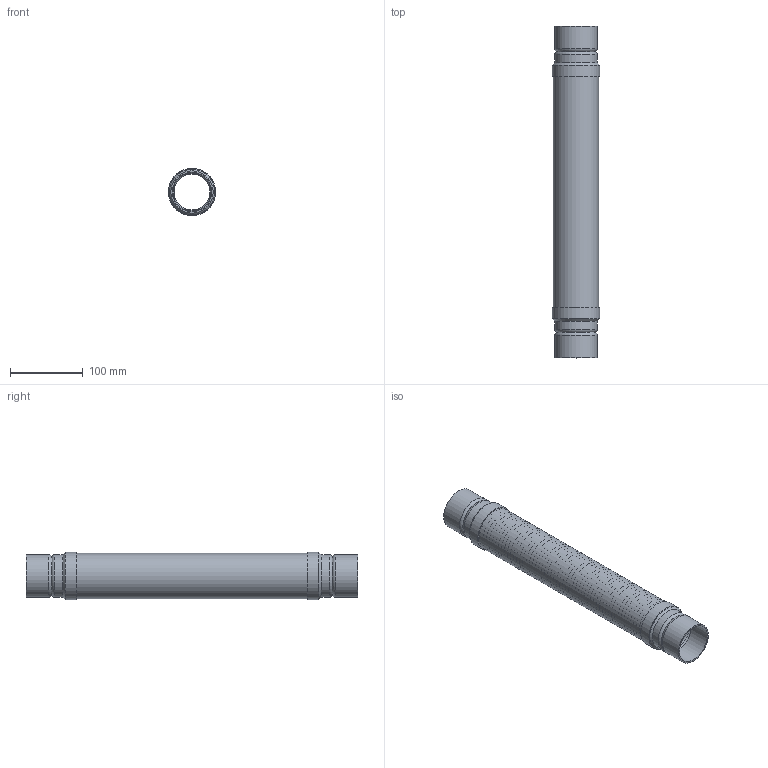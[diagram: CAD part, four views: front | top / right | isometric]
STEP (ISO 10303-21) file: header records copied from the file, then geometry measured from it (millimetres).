
FILE_DESCRIPTION((''),'2;1');
FILE_NAME('C:\2012_Work\Designs\CPSB\CPSB-2x18\CPSB-2x18.stp','2013-08-26T17:11:01',('KShiels'),(''),'Autodesk Inventor 2012','Autodesk Inventor 2012','');
FILE_SCHEMA(('AUTOMOTIVE_DESIGN { 1 0 10303 214 1 1 1 1 }'));
Length unit declared in the file: inch
Products named in the file (6): CPSB-2x18; CPSB-2x18_Welds; A-32708_2x18_CPSB_BRAID; A-32708_2x18_CPSB_BELLOWS; A-32708_2x18_CPSB_BRAID-COLLAR; A-32708_2x18_CPSB_GROOVED_NIPPLE
Assembly tree (7 placements, depth 2):
  CPSB-2x18
    CPSB-2x18_Welds
    A-32708_2x18_CPSB_BRAID
    A-32708_2x18_CPSB_BELLOWS
    A-32708_2x18_CPSB_BRAID-COLLAR  x2
    A-32708_2x18_CPSB_GROOVED_NIPPLE  x2
Bounding box: 65.15 x 457.2 x 65.15 mm (x, y, z)
Volume: 125335 mm3; surface area: 485185.7 mm2
Topology: 8 solids, 8 shells, 510 faces, 782 edges, 518 vertices
Faces by surface type: plane 246, torus 246, cylinder 16, cone 2
Full cylindrical faces by diameter (mm): 54.178 x4, 58.395 x6, 61.976 x3, 62.789 x1, 65.151 x2
Entity records: 10162 total; most frequent: DIRECTION 2010, CARTESIAN_POINT 1503, AXIS2_PLACEMENT_3D 1005, ORIENTED_EDGE 996, EDGE_LOOP 988, VERTEX_POINT 498, CIRCLE 498, EDGE_CURVE 498
